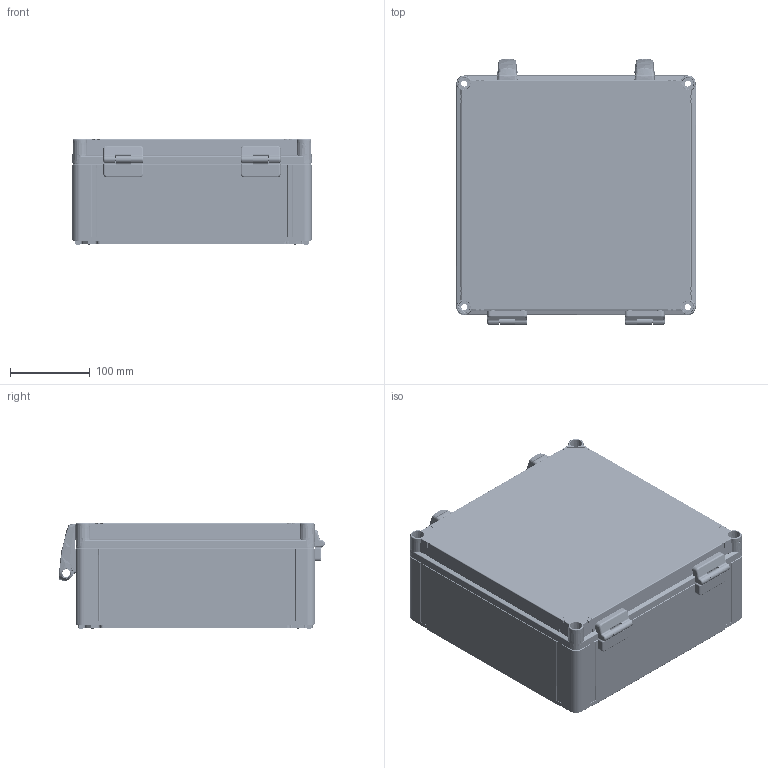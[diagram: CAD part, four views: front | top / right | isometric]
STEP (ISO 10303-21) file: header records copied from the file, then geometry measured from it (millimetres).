
FILE_DESCRIPTION((''),'2;1');
FILE_NAME('WPCP303013G_ASM','2005-11-23T',('mika_leppanen'),(''),'PRO/ENGINEER BY PARAMETRIC TECHNOLOGY CORPORATION, 2005110','PRO/ENGINEER BY PARAMETRIC TECHNOLOGY CORPORATION, 2005110','');
FILE_SCHEMA(('AUTOMOTIVE_DESIGN_CC2 { 1 2 10303 214 -1 1 5 2 }'));
Products named in the file (12): OPCP303010B_AF0; OPCG303003L_AF0; SARANA_KOTELO; SARANA_KANSI; CUBO_O_SARANATAPPI; CUBO_O_HINGE_ASM; PMR2426_KIINNITYSALUSTA; PMR2427_NIVEL; PMR2425_YL_KIINNITYS; PMR2428_ALAKIINNITYS; UUSISALPA_ASM; WPCP303013G_ASM
Assembly tree (13 placements, depth 3):
  WPCP303013G_ASM
    OPCP303010B_AF0
    OPCG303003L_AF0
    CUBO_O_HINGE_ASM  x2
      SARANA_KOTELO
      SARANA_KANSI
      CUBO_O_SARANATAPPI
    UUSISALPA_ASM  x2
      PMR2426_KIINNITYSALUSTA
      PMR2427_NIVEL
      PMR2425_YL_KIINNITYS
      PMR2428_ALAKIINNITYS
Bounding box: 300 x 333.15 x 132 mm (x, y, z)
Volume: 1534699.1 mm3; surface area: 834336.8 mm2
Topology: 16 solids, 16 shells, 5749 faces, 14074 edges, 8513 vertices
Faces by surface type: plane 1696, bspline 1582, cylinder 1307, cone 652, torus 410, sphere 102
Entity records: 201779 total; most frequent: CARTESIAN_POINT 76254, ORIENTED_EDGE 20836, DIRECTION 17863, PRESENTATION_STYLE_ASSIGNMENT 10427, STYLED_ITEM 10427, CURVE_STYLE 10418, EDGE_CURVE 10418, AXIS2_PLACEMENT_3D 6567
